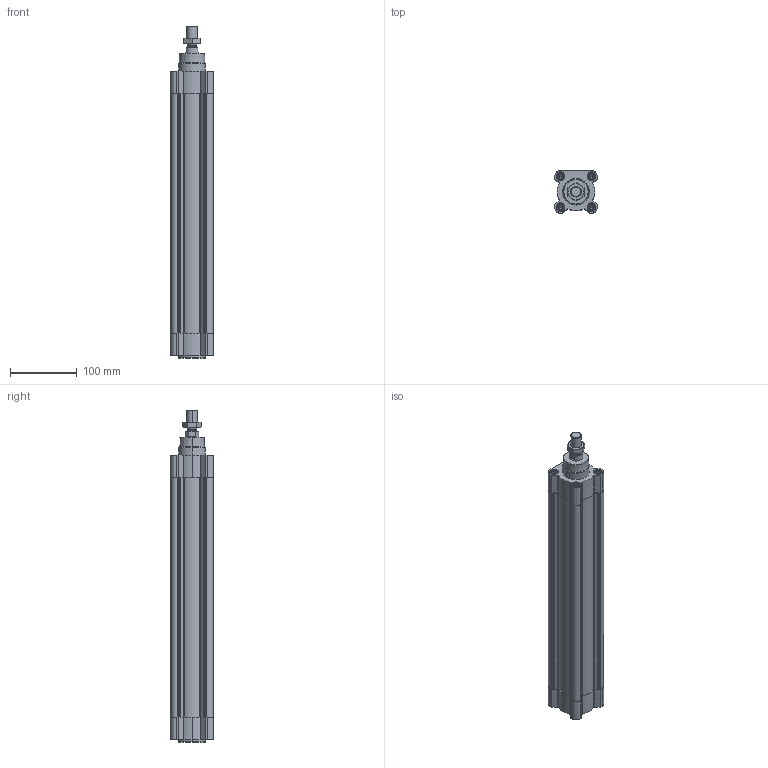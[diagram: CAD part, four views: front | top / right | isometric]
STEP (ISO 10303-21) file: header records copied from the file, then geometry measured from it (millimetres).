
FILE_DESCRIPTION (( 'STEP AP214' ), '1' );
FILE_NAME ('CPME50-320.STEP', '2025-05-27T19:07:00', ( '' ), ( '' ), 'SwSTEP 2.0', 'SolidWorks 2019', '' );
FILE_SCHEMA (( 'AUTOMOTIVE_DESIGN' ));
Length unit declared in the file: millimetre
Products named in the file (1): CPME50-320
Bounding box: 64 x 64 x 497.8 mm (x, y, z)
Volume: 923327.7 mm3; surface area: 249919 mm2
Topology: 3 solids, 3 shells, 639 faces, 1655 edges, 1050 vertices
Faces by surface type: plane 325, cylinder 200, cone 106, torus 8
Entity records: 27041 total; most frequent: CARTESIAN_POINT 4447, ORIENTED_EDGE 3278, DIRECTION 3187, EDGE_CURVE 1639, AXIS2_PLACEMENT_3D 1131, VERTEX_POINT 1050, VECTOR 925, LINE 925
